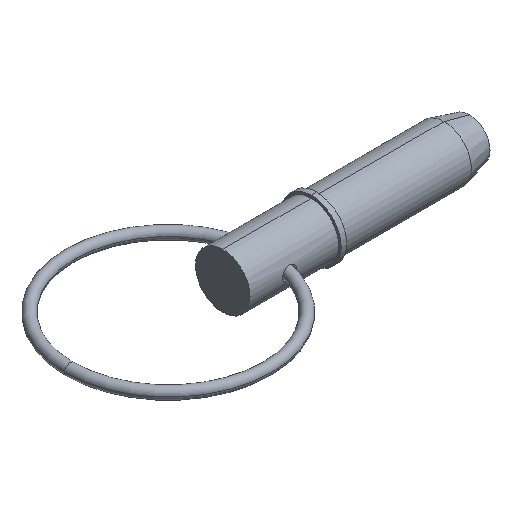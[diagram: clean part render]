
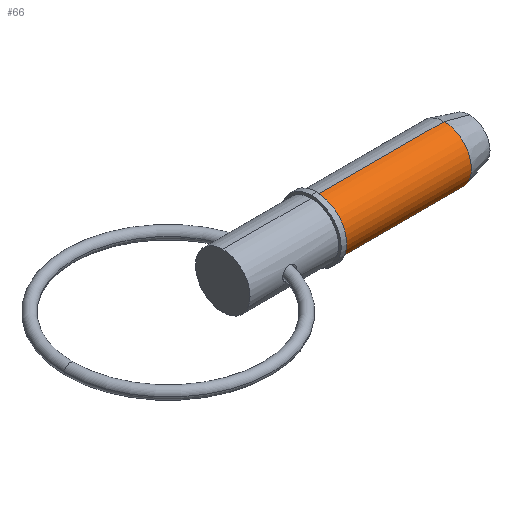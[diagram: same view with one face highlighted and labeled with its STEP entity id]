
A CAD part, isometric view. The second image highlights one B-rep face of the part: STEP entity #66.
In plain terms, the highlighted cylindrical face has radius 7.94 mm (diameter 15.88 mm), a partial arc.
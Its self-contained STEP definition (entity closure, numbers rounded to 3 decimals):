
#21 = CARTESIAN_POINT ( 'NONE',  ( 27.31, 0., 7.94 ) ) ;
#27 = AXIS2_PLACEMENT_3D ( 'NONE', #458, #783, #622 ) ;
#51 = DIRECTION ( 'NONE',  ( 1., 0., 0. ) ) ;
#62 = CARTESIAN_POINT ( 'NONE',  ( 27.31, 0., -7.94 ) ) ;
#66 = ADVANCED_FACE ( 'NONE', ( #693 ), #936, .T. ) ;
#86 = EDGE_CURVE ( 'NONE', #224, #498, #540, .T. ) ;
#141 = DIRECTION ( 'NONE',  ( 0., 0., -1. ) ) ;
#176 = EDGE_CURVE ( 'NONE', #1035, #224, #254, .T. ) ;
#200 = ORIENTED_EDGE ( 'NONE', *, *, #773, .F. ) ;
#218 = VECTOR ( 'NONE', #672, 1000. ) ;
#224 = VERTEX_POINT ( 'NONE', #62 ) ;
#227 = CARTESIAN_POINT ( 'NONE',  ( 0., 0., 0. ) ) ;
#236 = VERTEX_POINT ( 'NONE', #811 ) ;
#254 = CIRCLE ( 'NONE', #27, 7.94 ) ;
#425 = DIRECTION ( 'NONE',  ( 0., 0., -1. ) ) ;
#445 = CARTESIAN_POINT ( 'NONE',  ( 64.352, 0., -7.94 ) ) ;
#458 = CARTESIAN_POINT ( 'NONE',  ( 27.31, 0., 0. ) ) ;
#496 = EDGE_CURVE ( 'NONE', #1035, #236, #527, .T. ) ;
#498 = VERTEX_POINT ( 'NONE', #445 ) ;
#527 = LINE ( 'NONE', #846, #218 ) ;
#540 = LINE ( 'NONE', #786, #1001 ) ;
#548 = DIRECTION ( 'NONE',  ( 1., 0., 0. ) ) ;
#566 = ORIENTED_EDGE ( 'NONE', *, *, #496, .F. ) ;
#622 = DIRECTION ( 'NONE',  ( 0., 0., -1. ) ) ;
#661 = ORIENTED_EDGE ( 'NONE', *, *, #176, .T. ) ;
#672 = DIRECTION ( 'NONE',  ( 1., 0., 0. ) ) ;
#693 = FACE_OUTER_BOUND ( 'NONE', #795, .T. ) ;
#766 = ORIENTED_EDGE ( 'NONE', *, *, #86, .T. ) ;
#773 = EDGE_CURVE ( 'NONE', #236, #498, #893, .T. ) ;
#783 = DIRECTION ( 'NONE',  ( 1., 0., 0. ) ) ;
#786 = CARTESIAN_POINT ( 'NONE',  ( 0., 0., -7.94 ) ) ;
#795 = EDGE_LOOP ( 'NONE', ( #566, #661, #766, #200 ) ) ;
#809 = AXIS2_PLACEMENT_3D ( 'NONE', #227, #51, #141 ) ;
#811 = CARTESIAN_POINT ( 'NONE',  ( 64.352, 0., 7.94 ) ) ;
#819 = CARTESIAN_POINT ( 'NONE',  ( 64.352, 0., 0. ) ) ;
#846 = CARTESIAN_POINT ( 'NONE',  ( 0., 0., 7.94 ) ) ;
#893 = CIRCLE ( 'NONE', #910, 7.94 ) ;
#910 = AXIS2_PLACEMENT_3D ( 'NONE', #819, #994, #425 ) ;
#936 = CYLINDRICAL_SURFACE ( 'NONE', #809, 7.94 ) ;
#994 = DIRECTION ( 'NONE',  ( 1., 0., 0. ) ) ;
#1001 = VECTOR ( 'NONE', #548, 1000. ) ;
#1035 = VERTEX_POINT ( 'NONE', #21 ) ;
